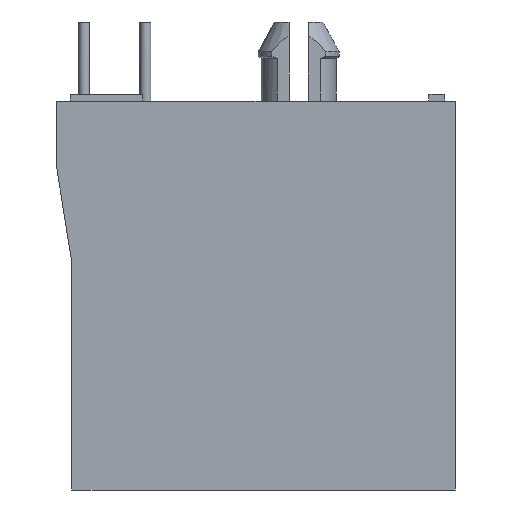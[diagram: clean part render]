
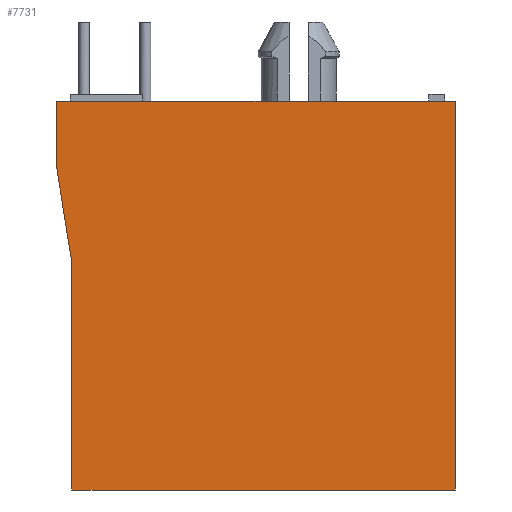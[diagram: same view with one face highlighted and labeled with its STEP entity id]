
A CAD part, left-side view. The second image highlights one B-rep face of the part: STEP entity #7731.
In plain terms, the highlighted planar face has unit normal (-1, 0, 0).
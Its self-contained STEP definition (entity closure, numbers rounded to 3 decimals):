
#85=DIRECTION('',(0.,-1.,0.));
#86=VECTOR('',#85,15.87);
#87=CARTESIAN_POINT('',(-6.73,7.93,-7.9));
#88=LINE('',#87,#86);
#1273=DIRECTION('',(0.,0.,-1.));
#1274=VECTOR('',#1273,2.8);
#1275=CARTESIAN_POINT('',(-6.73,8.56,8.2));
#1276=LINE('',#1275,#1274);
#1301=DIRECTION('',(0.,-1.,0.));
#1302=VECTOR('',#1301,0.004);
#1303=CARTESIAN_POINT('',(-6.73,8.56,5.4));
#1304=LINE('',#1303,#1302);
#1305=DIRECTION('',(0.,-1.,0.));
#1306=VECTOR('',#1305,16.5);
#1307=CARTESIAN_POINT('',(-6.73,8.56,8.2));
#1308=LINE('',#1307,#1306);
#1309=DIRECTION('',(0.,0.,1.));
#1310=VECTOR('',#1309,9.375);
#1311=CARTESIAN_POINT('',(-6.73,7.93,-7.9));
#1312=LINE('',#1311,#1310);
#1325=DIRECTION('',(0.,-0.158,-0.988));
#1326=VECTOR('',#1325,3.975);
#1327=CARTESIAN_POINT('',(-6.73,8.556,5.4));
#1328=LINE('',#1327,#1326);
#3511=DIRECTION('',(0.,0.,1.));
#3512=VECTOR('',#3511,16.1);
#3513=CARTESIAN_POINT('',(-6.73,-7.94,-7.9));
#3514=LINE('',#3513,#3512);
#5872=CARTESIAN_POINT('',(-6.73,7.93,-7.9));
#5873=CARTESIAN_POINT('',(-6.73,7.93,1.475));
#5874=VERTEX_POINT('',#5872);
#5875=VERTEX_POINT('',#5873);
#6052=CARTESIAN_POINT('',(-6.73,-7.94,-7.9));
#6054=VERTEX_POINT('',#6052);
#6056=CARTESIAN_POINT('',(-6.73,-7.94,8.2));
#6058=VERTEX_POINT('',#6056);
#6060=CARTESIAN_POINT('',(-6.73,8.56,5.4));
#6061=CARTESIAN_POINT('',(-6.73,8.556,5.4));
#6062=VERTEX_POINT('',#6060);
#6063=VERTEX_POINT('',#6061);
#6104=CARTESIAN_POINT('',(-6.73,8.56,8.2));
#6106=VERTEX_POINT('',#6104);
#7714=CARTESIAN_POINT('',(-6.73,7.95,-7.9));
#7715=DIRECTION('',(-1.,0.,0.));
#7716=DIRECTION('',(0.,-1.,0.));
#7717=AXIS2_PLACEMENT_3D('',#7714,#7715,#7716);
#7718=PLANE('',#7717);
#7720=ORIENTED_EDGE('',*,*,#7719,.F.);
#7721=ORIENTED_EDGE('',*,*,#6952,.F.);
#7722=ORIENTED_EDGE('',*,*,#7700,.F.);
#7723=ORIENTED_EDGE('',*,*,#6650,.T.);
#7725=ORIENTED_EDGE('',*,*,#7724,.F.);
#7726=ORIENTED_EDGE('',*,*,#6261,.F.);
#7728=ORIENTED_EDGE('',*,*,#7727,.T.);
#7729=EDGE_LOOP('',(#7720,#7721,#7722,#7723,#7725,#7726,#7728));
#7730=FACE_OUTER_BOUND('',#7729,.F.);
#7731=ADVANCED_FACE('',(#7730),#7718,.T.);
#6261=EDGE_CURVE('',#5874,#6054,#88,.T.);
#6650=EDGE_CURVE('',#6106,#6058,#1308,.T.);
#6952=EDGE_CURVE('',#6062,#6063,#1304,.T.);
#7700=EDGE_CURVE('',#6106,#6062,#1276,.T.);
#7719=EDGE_CURVE('',#6063,#5875,#1328,.T.);
#7724=EDGE_CURVE('',#6054,#6058,#3514,.T.);
#7727=EDGE_CURVE('',#5874,#5875,#1312,.T.);
